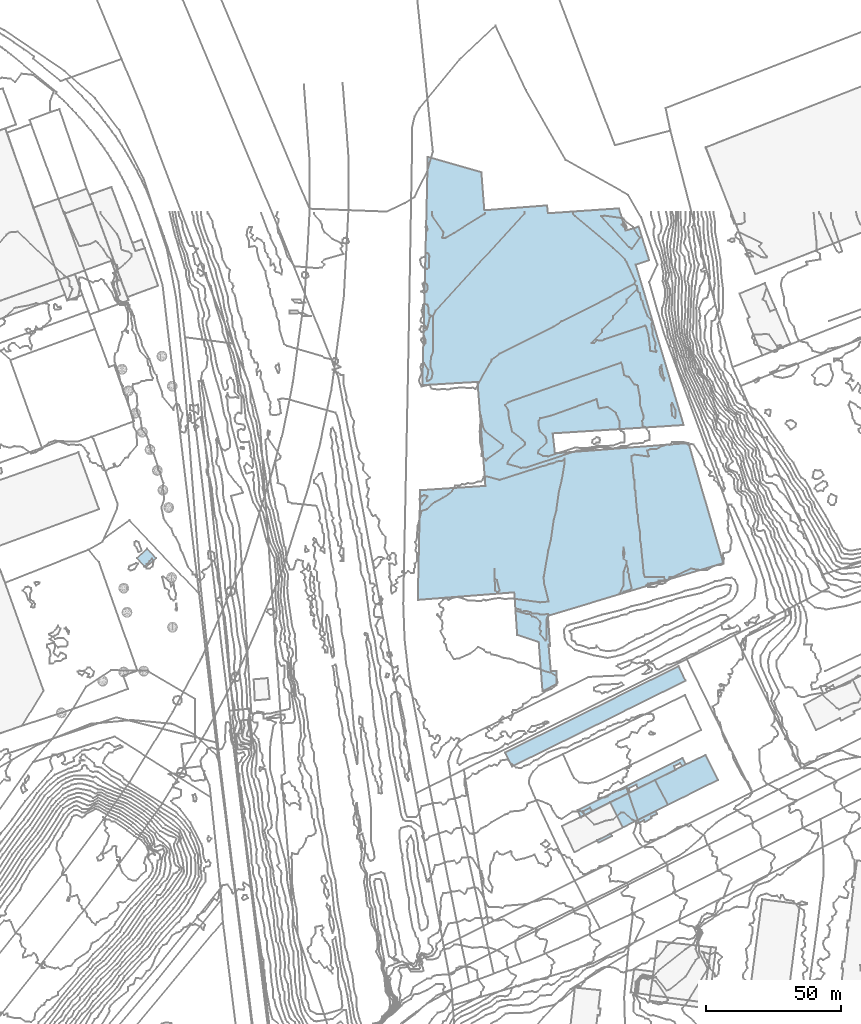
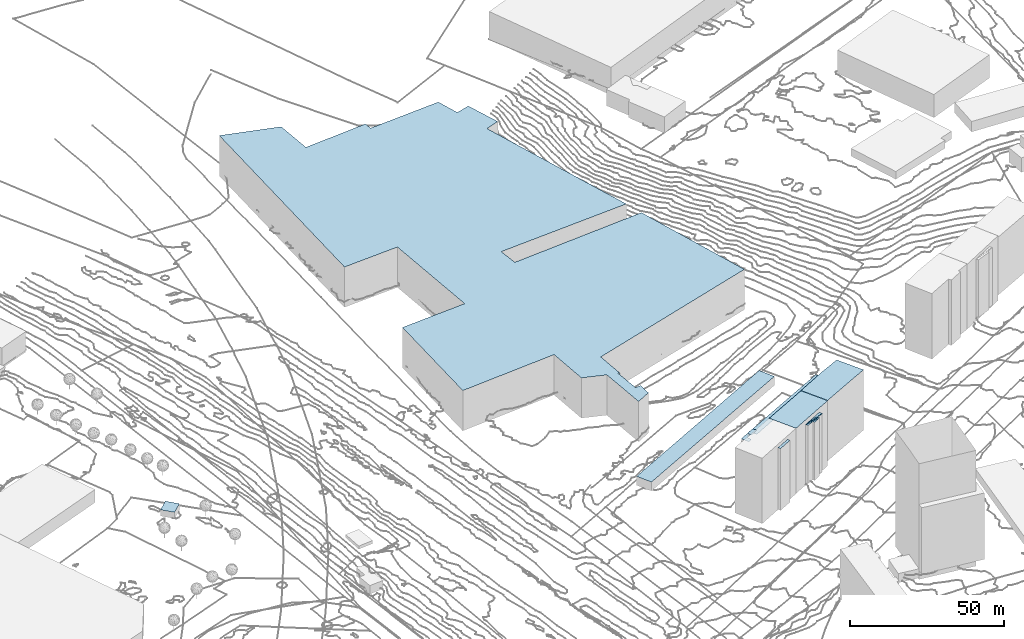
# Not in any storey, part 88 of 419: 9 roofs.
"""IFC2X3 model written with IfcOpenShell, lengths in metres."""

import ifcopenshell
import ifcopenshell.guid

model = None  # the IFC model being written
_history = None  # IfcOwnerHistory: only IFC2X3 demands one
_inside = {}  # id of a spatial element -> (the spatial element, [elements in it])
_under = {}  # id of a project, library or spatial element -> (it, [spatial elements below it])
_declared = {}  # id of a project -> (the project, [libraries it declares])
_typed = {}  # id of a type object -> (the type object, [elements of that type])
_made_of = {}  # id of a material, layer set ... -> (it, [elements and type objects made of it])


def new_model(schema):
    """Start an empty IFC model of exactly this schema.

    Asked for "IFC4X3", IfcOpenShell would pick the latest addendum, in which some entities
    have other attributes; the version numbers below select the first issue.
    IFC2X3 requires an IfcOwnerHistory on every rooted entity: one is made here for all.
    """
    global model, _history
    if schema == "IFC4X3":
        model = ifcopenshell.file(schema_version=(4, 3, 0, 0))
    else:
        model = ifcopenshell.file(schema=schema)
    _inside.clear()
    _under.clear()
    _declared.clear()
    _typed.clear()
    _made_of.clear()
    _history = None
    if model.schema == "IFC2X3":
        org = make("IfcOrganization", Name="unknown")
        user = make(
            "IfcPersonAndOrganization",
            ThePerson=make("IfcPerson", FamilyName="unknown"),
            TheOrganization=org,
        )
        app = make(
            "IfcApplication",
            ApplicationDeveloper=org,
            Version="unknown",
            ApplicationFullName="unknown",
            ApplicationIdentifier="unknown",
        )
        _history = make(
            "IfcOwnerHistory",
            OwningUser=user,
            OwningApplication=app,
            ChangeAction="ADDED",
            CreationDate=0,
        )
    return model


def make(cls, **values):
    """One entity of the class cls with the attributes given. An attribute that is None is left unset."""
    return model.create_entity(
        cls, **{name: value for name, value in values.items() if value is not None}
    )


def rooted(cls, **values):
    """An entity with a GlobalId (a new one), such as an element, a storey or a relation."""
    return make(cls, GlobalId=ifcopenshell.guid.new(), OwnerHistory=_history, **values)


def si_unit(unit_type, name, prefix=None):
    """IfcSIUnit, for example si_unit("LENGTHUNIT", "METRE", prefix="MILLI")."""
    return make("IfcSIUnit", UnitType=unit_type, Prefix=prefix, Name=name)


def assignment(units):
    """IfcUnitAssignment: the units of a project."""
    return None if units is None else make("IfcUnitAssignment", Units=units)


def point(xyz):
    """IfcCartesianPoint."""
    return None if xyz is None else make("IfcCartesianPoint", Coordinates=xyz)


def direction(xyz):
    """IfcDirection."""
    return None if xyz is None else make("IfcDirection", DirectionRatios=xyz)


def frame(location, z_axis=None, x_axis=None):
    """IfcAxis2Placement3D, a coordinate frame: its origin and axes. An axis left out is left unset."""
    return make(
        "IfcAxis2Placement3D",
        Location=point(location),
        Axis=direction(z_axis),
        RefDirection=direction(x_axis),
    )


def origin_with_axes():
    """The frame at (0, 0, 0) with the z axis (0, 0, 1) and the x axis (1, 0, 0) written out."""
    return frame((0.0, 0.0, 0.0), z_axis=(0.0, 0.0, 1.0), x_axis=(1.0, 0.0, 0.0))


def place(relative_to, where):
    """IfcLocalPlacement: puts the frame where relative to a parent placement (None: the world)."""
    return make(
        "IfcLocalPlacement", PlacementRelTo=relative_to, RelativePlacement=where
    )


def context(
    kind, dimensions, precision=None, world=None, true_north=None, identifier=None
):
    """IfcGeometricRepresentationContext, for example the 3D "Model" context."""
    return make(
        "IfcGeometricRepresentationContext",
        ContextIdentifier=identifier,
        ContextType=kind,
        CoordinateSpaceDimension=dimensions,
        Precision=precision,
        WorldCoordinateSystem=world,
        TrueNorth=true_north,
    )


def subcontext(parent, identifier, kind, view, scale=None):
    """IfcGeometricRepresentationSubContext, for example "Body" below "Model"."""
    return make(
        "IfcGeometricRepresentationSubContext",
        ContextIdentifier=identifier,
        ContextType=kind,
        ParentContext=parent,
        TargetScale=scale,
        TargetView=view,
    )


def project(units=None, contexts=None):
    """IfcProject with its units and contexts."""
    return rooted(
        "IfcProject",
        Name="project",
        RepresentationContexts=contexts,
        UnitsInContext=assignment(units),
    )


def faces_of(points, faces, orient=None, outer=None):
    """IfcFace entities. A face is a list of loops; a loop is a list of indices into points, from 0.

    orient and outer hold one flag for each loop. By default every Orientation is true, the
    first loop of a face is its IfcFaceOuterBound and the others are IfcFaceBound.
    """
    made = []
    for i, loops in enumerate(faces):
        bounds = []
        for j, loop in enumerate(loops):
            is_outer = j == 0 if outer is None else outer[i][j]
            bounds.append(
                make(
                    "IfcFaceOuterBound" if is_outer else "IfcFaceBound",
                    Bound=make("IfcPolyLoop", Polygon=[points[k] for k in loop]),
                    Orientation=True if orient is None else orient[i][j],
                )
            )
        made.append(make("IfcFace", Bounds=bounds))
    return made


def faceted_brep(points, faces, orient=None, outer=None, voids=None):
    """IfcFacetedBrep: a solid bounded by flat faces; with voids (closed shells), ...WithVoids."""
    shared = [point(p) for p in points]
    hull = make("IfcClosedShell", CfsFaces=faces_of(shared, faces, orient, outer))
    if voids is None:
        return make("IfcFacetedBrep", Outer=hull)
    return make(
        "IfcFacetedBrepWithVoids",
        Outer=hull,
        Voids=[
            make(cls, CfsFaces=faces_of(shared, fs, o, b)) for cls, fs, o, b in voids
        ],
    )


def shape(context_of_items, identifier, shape_type, items):
    """IfcShapeRepresentation: the items that make up one representation, for example the "Body"."""
    return make(
        "IfcShapeRepresentation",
        ContextOfItems=context_of_items,
        RepresentationIdentifier=identifier,
        RepresentationType=shape_type,
        Items=items,
    )


def made_of(thing, what):
    """Note that an element or type object is made of a material, layer set ...; save() writes the relation."""
    if what is not None:
        _made_of.setdefault(what.id(), (what, []))[1].append(thing)
    return thing


def element(
    cls,
    number,
    at=None,
    inside=None,
    cuts=None,
    type_object=None,
    material=None,
    context=None,
    identifier="Body",
    shape_type=None,
    held_by="IfcProductDefinitionShape",
    body=None,
    shapes=None,
    **own,
):
    """One element of the class cls, such as IfcWall. Its Tag is "e" and its number.

    at: its placement. inside: the storey or other place that contains it. cuts: it is an
    opening in that element (IfcRelVoidsElement). A single representation is given by context,
    identifier, shape_type and body (its items); several are given by shapes. held_by: the class
    of the entity that holds the representations. save() writes the other relations.
    """
    e = rooted(cls, Tag="e%d" % number, ObjectPlacement=at, **own)
    if body is not None:
        shapes = [shape(context, identifier, shape_type, body)]
    if shapes is not None:
        e.Representation = make(held_by, Representations=shapes)
    if inside is not None:
        _inside.setdefault(inside.id(), (inside, []))[1].append(e)
    if cuts is not None:
        rooted(
            "IfcRelVoidsElement", RelatingBuildingElement=cuts, RelatedOpeningElement=e
        )
    if type_object is not None:
        _typed.setdefault(type_object.id(), (type_object, []))[1].append(e)
    return made_of(e, material)


def aggregate(whole, parts):
    """IfcRelAggregates: a whole, such as a stair, and the parts it consists of."""
    return rooted("IfcRelAggregates", RelatingObject=whole, RelatedObjects=parts)


def save(model, path):
    """Write the relations noted so far, then the file.

    IfcRelAggregates (storeys below a building ...), IfcRelContainedInSpatialStructure (elements
    in a storey), IfcRelDefinesByType, IfcRelAssociatesMaterial and IfcRelDeclares: one each for
    every whole, place, type object, material and project.
    """
    for whole, parts in _under.values():
        aggregate(whole, parts)
    for where, things in _inside.values():
        rooted(
            "IfcRelContainedInSpatialStructure",
            RelatedElements=things,
            RelatingStructure=where,
        )
    for kind, things in _typed.values():
        rooted("IfcRelDefinesByType", RelatedObjects=things, RelatingType=kind)
    for what, things in _made_of.values():
        rooted("IfcRelAssociatesMaterial", RelatedObjects=things, RelatingMaterial=what)
    for by, libraries in _declared.values():
        rooted("IfcRelDeclares", RelatingContext=by, RelatedDefinitions=libraries)
    model.write(path)


model = new_model("IFC2X3")

# Units and contexts
model_context = context("Model", 3, precision=1e-05, world=origin_with_axes())
body_context = subcontext(model_context, "Body", "Model", "MODEL_VIEW")
ifc_project = project(units=[si_unit("AREAUNIT", "SQUARE_METRE"), si_unit("LENGTHUNIT", "METRE")], contexts=[model_context])

# Roofs
roof_1_placement = place(None, frame((290.7920204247, 821.6976909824, 30.277000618), z_axis=(0.0, 0.0, 1.0), x_axis=(1.0, 0.0, 0.0)))
element("IfcRoof", 1, at=roof_1_placement, Name="Toiture 0", ShapeType="NOTDEFINED", context=body_context, shape_type="Brep", body=[
    faceted_brep([(18.7000000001, 9.2000000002, 23.922999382), (11.4, 5.7999999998, 23.922999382), (0.0, 0.0, 23.922999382), (4.7000000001, -9.2000000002, 23.922999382), (23.4, 0.0, 23.922999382)], [[[0, 1, 2]], [[2, 3, 4]], [[4, 0, 2]]]),
])
roof_2_placement = place(None, frame((269.1920204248, 799.2976909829, 28.2199993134), z_axis=(0.0, 0.0, 1.0), x_axis=(1.0, 0.0, 0.0)))
element("IfcRoof", 2, at=roof_2_placement, Name="Toiture 0", ShapeType="NOTDEFINED", context=body_context, shape_type="Brep", body=[
    faceted_brep([(5.1, 2.5, 24.4800006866), (0.0, 0.0, 24.4800006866), (0.5, -0.9000000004, 24.4800006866), (5.5, 1.5999999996, 24.4800006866)], [[[0, 1, 2]], [[2, 3, 0]]]),
])
roof_3_placement = place(None, frame((98.4920204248, 904.0976909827, 21.8522004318), z_axis=(0.0, 0.0, 1.0), x_axis=(1.0, 0.0, 0.0)))
element("IfcRoof", 3, at=roof_3_placement, Name="Toiture 0", ShapeType="NOTDEFINED", context=body_context, shape_type="Brep", body=[
    faceted_brep([(7.0, -0.1000000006, 2.4477995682), (3.7999999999, 3.5, 2.4477995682), (0.0, 0.0, 2.4477995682), (3.2, -3.5, 2.4477995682)], [[[0, 1, 2]], [[2, 3, 0]]]),
])
roof_4_placement = place(None, frame((274.0920204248, 813.3976909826, 28.3087998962), z_axis=(0.0, 0.0, 1.0), x_axis=(1.0, 0.0, 0.0)))
element("IfcRoof", 4, at=roof_4_placement, Name="Toiture 0", ShapeType="NOTDEFINED", context=body_context, shape_type="Brep", body=[
    faceted_brep([(21.4, -0.9000000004, 25.7912001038), (16.7, 8.2999999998, 25.7912001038), (0.0, 0.0, 25.7912001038), (4.7, -9.2999999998, 25.7912001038)], [[[0, 1, 2]], [[2, 3, 0]]]),
])
roof_5_placement = place(None, frame((235.0920204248, 831.8976909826, 29.9789994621), z_axis=(0.0, 0.0, 1.0), x_axis=(1.0, 0.0, 0.0)))
element("IfcRoof", 5, at=roof_5_placement, Name="Toiture 0", ShapeType="NOTDEFINED", context=body_context, shape_type="Brep", body=[
    faceted_brep([(0.0, 0.0, 3.5210005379), (2.6, -5.2000000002, 3.5210005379), (67.0, 26.5999999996, 3.5210005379), (64.4, 32.0, 3.5210005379)], [[[0, 1, 2]], [[2, 3, 0]]]),
])
roof_6_placement = place(None, frame((264.0920204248, 810.0976909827, 28.9349998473), z_axis=(0.0, 0.0, 1.0), x_axis=(1.0, 0.0, 0.0)))
element("IfcRoof", 6, at=roof_6_placement, Name="Toiture 0", ShapeType="NOTDEFINED", context=body_context, shape_type="Brep", body=[
    faceted_brep([(0.5, -1.6000000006, 24.7650001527), (3.5, 0.0, 24.7650001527), (2.6, 1.2999999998, 24.7650001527), (0.0, 0.0, 24.7650001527)], [[[0, 1, 2]], [[2, 3, 0]]]),
])
roof_7_placement = place(None, frame((261.9920204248, 810.4976909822, 28.4848001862), z_axis=(0.0, 0.0, 1.0), x_axis=(1.0, 0.0, 0.0)))
element("IfcRoof", 7, at=roof_7_placement, Name="Toiture 0", ShapeType="NOTDEFINED", context=body_context, shape_type="Brep", body=[
    faceted_brep([(38.7999999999, 16.3000000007, 23.5151998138), (40.2, 17.0, 23.5151998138), (39.0, 19.3000000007, 23.5151998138), (0.0, 0.0, 23.5151998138), (1.2, -2.6999999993, 23.5151998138), (2.6, -2.0, 23.5151998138), (4.7, 0.9000000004, 23.5151998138), (5.6, -0.3999999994, 23.5151998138), (19.5, 6.6000000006, 23.5151998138), (21.7999999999, 9.5, 23.5151998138), (22.4, 8.1000000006, 23.5151998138), (36.2999999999, 14.9000000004, 23.5151998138), (38.1, 17.5, 23.5151998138), (2.1, -0.3999999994, 23.5151998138), (19.0, 8.0, 23.5151998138), (35.7999999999, 16.3000000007, 23.5151998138)], [[[0, 1, 2]], [[3, 4, 5]], [[6, 7, 8]], [[9, 10, 11]], [[12, 0, 2]], [[3, 5, 13]], [[6, 8, 14]], [[9, 11, 15]], [[15, 12, 2]], [[2, 3, 13]], [[6, 14, 9]], [[9, 15, 2]], [[2, 13, 6]], [[6, 9, 2]]]),
])
roof_8_placement = place(None, frame((283.6920204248, 806.3976909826, 29.4510004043), z_axis=(0.0, 0.0, 1.0), x_axis=(1.0, 0.0, 0.0)))
element("IfcRoof", 8, at=roof_8_placement, Name="Toiture 0", ShapeType="NOTDEFINED", context=body_context, shape_type="Brep", body=[
    faceted_brep([(7.7000000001, 2.5999999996, 23.0489995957), (7.4, 3.7999999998, 23.0489995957), (0.0, 0.0, 23.0489995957), (0.4, -0.9000000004, 23.0489995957), (2.9, 0.2999999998, 23.0489995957), (3.2000000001, -0.4000000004, 23.0489995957), (5.8, 1.0999999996, 23.0489995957), (5.5, 1.7000000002, 23.0489995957)], [[[0, 1, 2]], [[2, 3, 4]], [[4, 5, 6]], [[7, 0, 2]], [[2, 4, 6]], [[6, 7, 2]]]),
])
roof_9_placement = place(None, frame((202.6920204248, 888.4976909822, 28.5593996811), z_axis=(0.0, 0.0, 1.0), x_axis=(1.0, 0.0, 0.0)))
element("IfcRoof", 9, at=roof_9_placement, Name="Toiture 0", ShapeType="NOTDEFINED", context=body_context, shape_type="Brep", body=[
    faceted_brep([(0.9, 40.7000000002, 15.9406003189), (0.0, 0.0, 15.9406003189), (35.8, 2.8000000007, 15.9406003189), (36.9, -13.0, 15.9406003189), (44.9, -15.6999999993, 15.9406003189), (46.3, -33.8999999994, 15.9406003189), (51.5, -31.1999999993, 15.9406003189), (51.4, -26.3999999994, 15.9406003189), (48.5, -16.5999999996, 15.9406003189), (49.1, -17.0999999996, 15.9406003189), (48.3, -5.8999999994, 15.9406003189), (113.4, 13.7000000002, 15.9406003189), (100.5, 58.2000000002, 15.9406003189), (50.1, 61.8000000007, 15.9406003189), (98.7000000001, 64.9000000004, 15.9406003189), (80.9, 124.4000000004, 15.9406003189), (85.9, 126.1000000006, 15.9406003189), (82.0, 138.5, 15.9406003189), (77.1, 137.1000000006, 15.9406003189), (74.7000000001, 145.3000000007, 15.9406003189), (48.3, 143.5, 15.9406003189), (48.0, 146.4000000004, 15.9406003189), (24.7000000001, 144.6000000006, 15.9406003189), (23.6, 158.7000000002, 15.9406003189), (3.7000000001, 164.4000000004, 15.9406003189), (1.7000000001, 79.7000000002, 15.9406003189), (22.2000000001, 80.9000000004, 15.9406003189), (25.1, 42.3000000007, 15.9406003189), (49.4, -26.5, 15.9406003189), (50.9, 54.4000000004, 15.9406003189)], [[[0, 1, 2]], [[2, 3, 4]], [[5, 6, 7]], [[8, 9, 10]], [[10, 11, 12]], [[13, 14, 15]], [[15, 16, 17]], [[18, 19, 20]], [[20, 21, 22]], [[22, 23, 24]], [[24, 25, 26]], [[27, 0, 2]], [[5, 7, 28]], [[10, 12, 29]], [[13, 15, 17]], [[18, 20, 22]], [[22, 24, 26]], [[26, 27, 2]], [[4, 5, 28]], [[10, 29, 13]], [[13, 17, 18]], [[18, 22, 26]], [[26, 2, 4]], [[4, 28, 8]], [[13, 18, 26]], [[26, 4, 8]], [[10, 13, 26]], [[26, 8, 10]]]),
])

save(model, "model.ifc")
